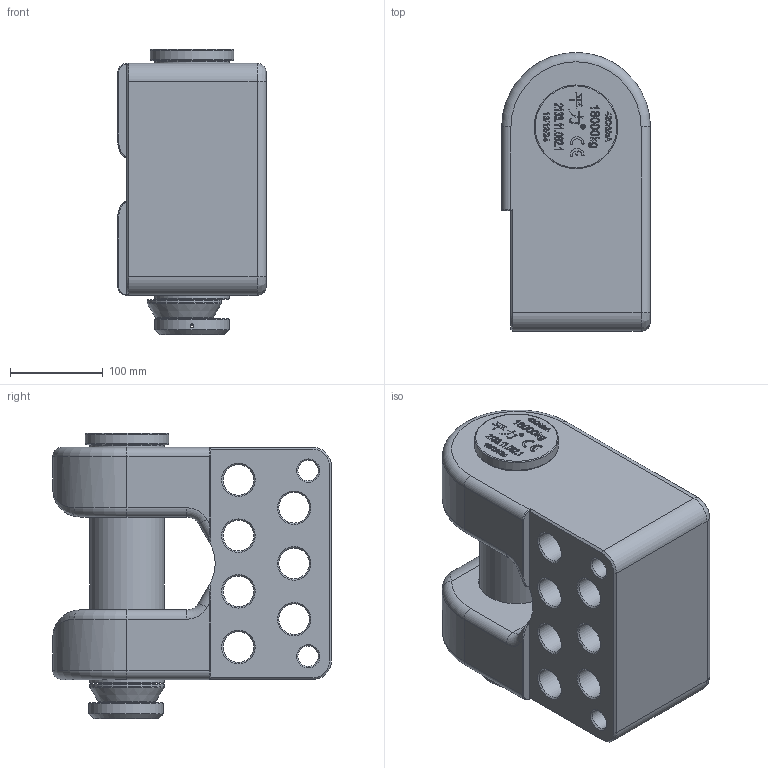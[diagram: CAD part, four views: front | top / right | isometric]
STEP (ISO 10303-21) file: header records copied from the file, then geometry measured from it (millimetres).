
FILE_DESCRIPTION(/* description */ (''),/* implementation_level */ '2;1');
FILE_NAME(/* name */ '2133.11.082.stp',/* time_stamp */ '2025-04-02T14:00:45+08:00',/* author */ (''),/* organization */ (''),/* preprocessor_version */ 'ST-DEVELOPER v16',/* originating_system */ 'SIEMENS PLM Software NX 10.0',/* authorisation */ '');
FILE_SCHEMA (('AP203_CONFIGURATION_CONTROLLED_3D_DESIGN_OF_MECHANICAL_PARTS_AND_ASSEMBLIES_MIM_LF { 1 0 10303 403 2 1 2}'));
Length unit declared in the file: millimetre
Products named in the file (1): Admi177C9AD32iju
Bounding box: 160 x 300 x 307 mm (x, y, z)
Volume: 7946600.8 mm3; surface area: 564318 mm2
Topology: 4 solids, 4 shells, 1132 faces, 2993 edges, 1962 vertices
Faces by surface type: extrusion 463, plane 459, cylinder 115, torus 40, cone 34, bspline 21
Full cylindrical faces by diameter (mm): 3.9 x3, 22 x2, 27 x2, 33 x7, 36 x1, 48 x7, 52 x1, 80 x3, 82 x2, 90 x1
Entity records: 43178 total; most frequent: CARTESIAN_POINT 17871, ORIENTED_EDGE 5774, DIRECTION 3658, EDGE_CURVE 2887, VERTEX_POINT 1929, B_SPLINE_CURVE_WITH_KNOTS 1760, VECTOR 1744, EDGE_LOOP 1328
